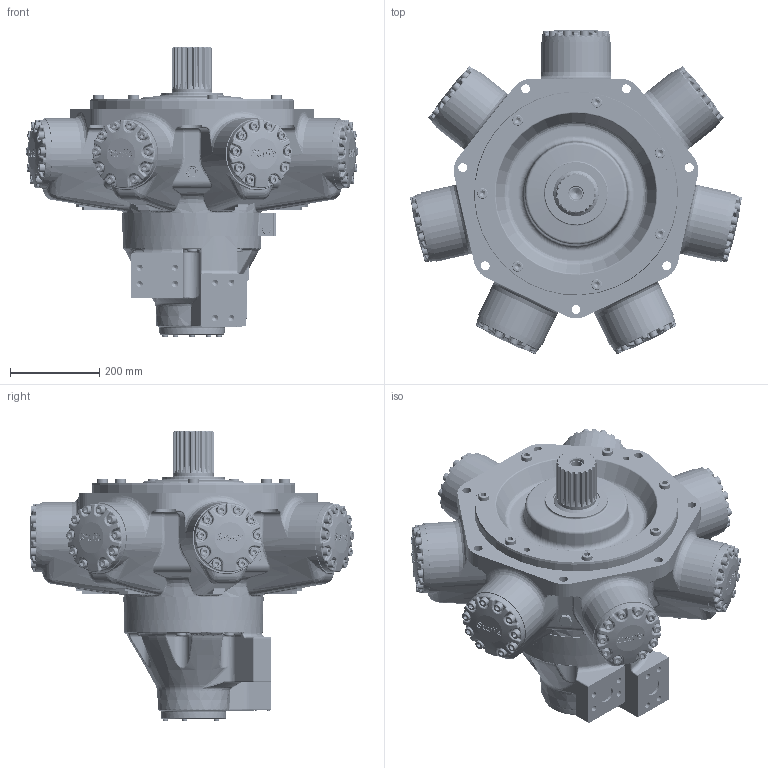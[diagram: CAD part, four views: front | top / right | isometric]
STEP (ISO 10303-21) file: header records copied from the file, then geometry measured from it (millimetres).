
FILE_DESCRIPTION(/* description */ (''),/* implementation_level */ '2;1');
FILE_NAME(/* name */ 'HMC325_Z4_FM4_CS.stp',/* time_stamp */ '2025-06-12T16:21:29+01:00',/* author */ ('ccallanga'),/* organization */ (''),/* preprocessor_version */ 'ST-DEVELOPER v20',/* originating_system */ 'Autodesk Inventor 2024',/* authorisation */ '');
FILE_SCHEMA (('AUTOMOTIVE_DESIGN { 1 0 10303 214 3 1 1 }'));
Products named in the file (1): 017753 HMC325 Web Assembly_Simplify_1
Bounding box: 744.35 x 728.18 x 648.79 mm (x, y, z)
Volume: 76076941.9 mm3; surface area: 1758571.8 mm2
Topology: 1 solids, 1 shells, 6302 faces, 15326 edges, 9064 vertices
Faces by surface type: bspline 2360, plane 1706, cylinder 1348, torus 525, cone 199, sphere 164
Full cylindrical faces by diameter (mm): 2.2 x4, 4 x1, 4.134 x4, 5 x4, 5.5 x4, 6.05 x2, 9.4 x3, 11.913 x5, 12 x3, 12.7 x5, 13.843 x8, 14.351 x2, 16.51 x1, 19 x1, 19.05 x70, 20 x7, 20.637 x70, 23.825 x14, 25 x1, 25.4 x14, 26.211 x1, 26.92 x2, 27.94 x1, 30.48 x1, 38.1 x5, 90 x1, 101.575 x1, 106.68 x1, 139.7 x1, 146 x1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
Entity records: 279084 total; most frequent: CARTESIAN_POINT 143426, ORIENTED_EDGE 30068, DIRECTION 21653, EDGE_CURVE 15034, VERTEX_POINT 9064, AXIS2_PLACEMENT_3D 8452, EDGE_LOOP 6646, STYLED_ITEM 6303
